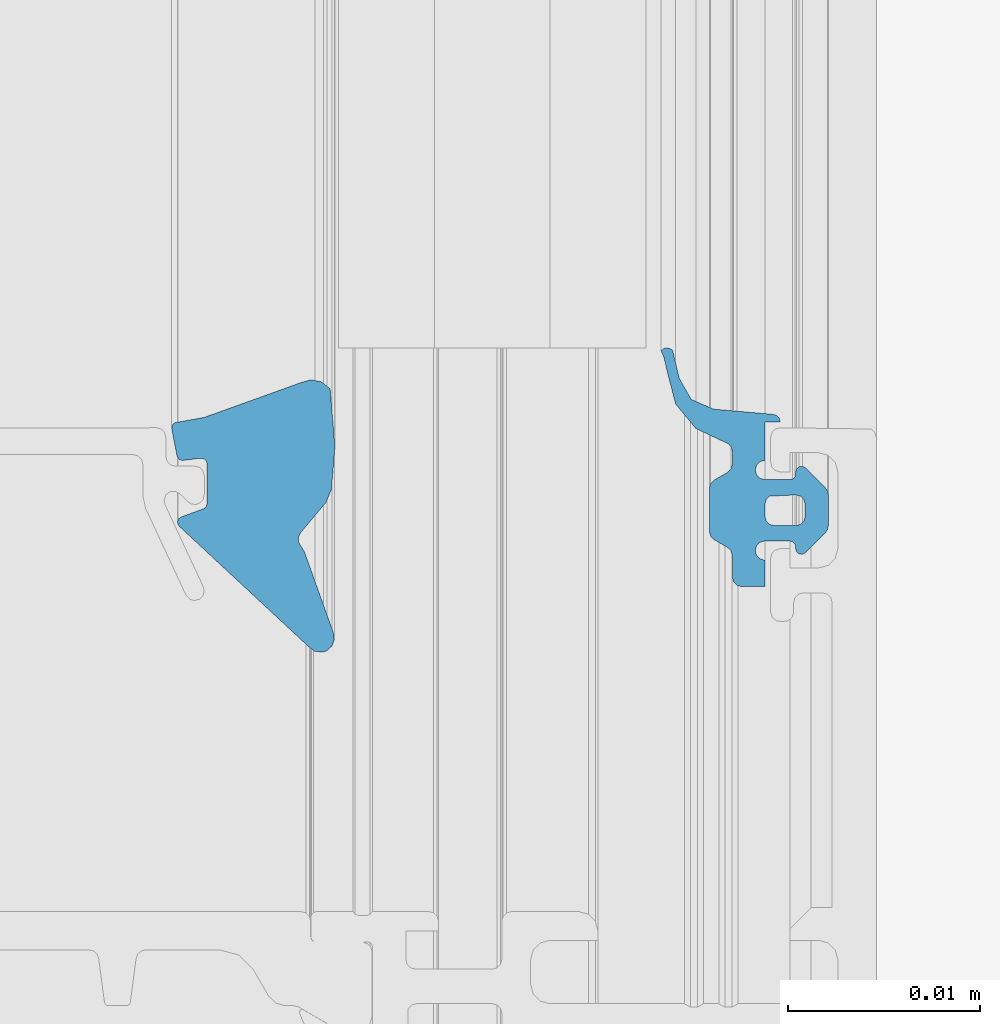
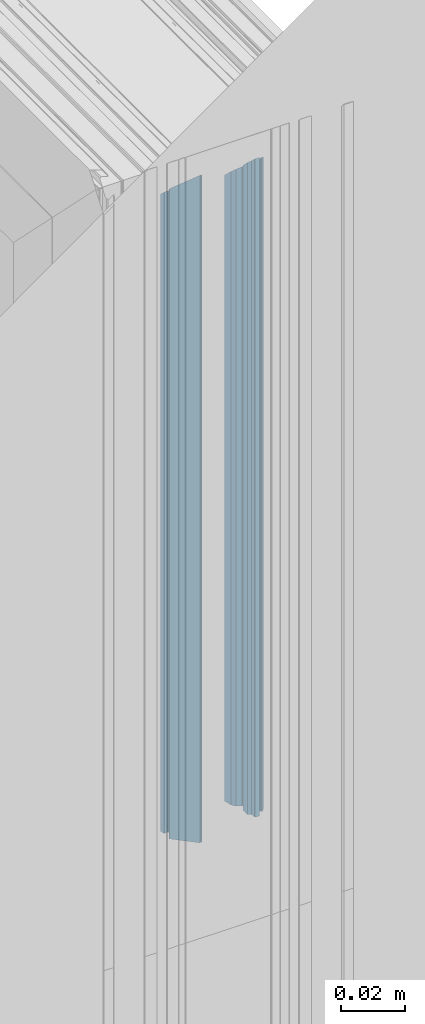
# One storey, part 49 of 65: 1 building element part, 2 elements without a shape of their own.
"""IFC2X3 building model written with IfcOpenShell, lengths in millimetres."""

from ifc_helpers import new_model, entity, si_unit, converted_unit, derived_unit, money_unit, direction, frame, origin_with_axes, place, context, subcontext, project, spatial, faceted_brep, material, type_object, element, aggregate, save


model = new_model("IFC2X3")

# Units and contexts
model_context = context("Model", 3, precision=0.01, world=origin_with_axes(), true_north=direction((0.0, 1.0)))
body_context = subcontext(model_context, "Body", "Model", "MODEL_VIEW")
ifc_project = project(units=[si_unit("LENGTHUNIT", "METRE", prefix="MILLI"), si_unit("AREAUNIT", "SQUARE_METRE"), si_unit("VOLUMEUNIT", "CUBIC_METRE"), converted_unit("PLANEANGLEUNIT", "DEGREE", entity("IfcPlaneAngleMeasure", 0.0174532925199), si_unit("PLANEANGLEUNIT", "RADIAN"), dimensions=[0, 0, 0, 0, 0, 0, 0]), si_unit("SOLIDANGLEUNIT", "STERADIAN"), money_unit("EUR"), converted_unit("TIMEUNIT", "Year", entity("IfcTimeMeasure", 31556926.0), si_unit("TIMEUNIT", "SECOND"), dimensions=[0, 0, 1, 0, 0, 0, 0]), si_unit("MASSUNIT", "GRAM", prefix="KILO"), si_unit("THERMODYNAMICTEMPERATUREUNIT", "DEGREE_CELSIUS"), si_unit("LUMINOUSINTENSITYUNIT", "LUMEN"), si_unit("ENERGYUNIT", "JOULE", prefix="MEGA"), derived_unit("THERMALCONDUCTANCEUNIT", [(si_unit("POWERUNIT", "WATT"), 1), (si_unit("LENGTHUNIT", "METRE"), -1), (si_unit("THERMODYNAMICTEMPERATUREUNIT", "KELVIN"), -1)]), derived_unit("SPECIFICHEATCAPACITYUNIT", [(si_unit("ENERGYUNIT", "JOULE"), 1), (si_unit("MASSUNIT", "GRAM", prefix="KILO"), -1), (si_unit("THERMODYNAMICTEMPERATUREUNIT", "KELVIN"), -1)]), derived_unit("MASSDENSITYUNIT", [(si_unit("MASSUNIT", "GRAM", prefix="KILO"), 1), (si_unit("VOLUMEUNIT", "CUBIC_METRE"), -1)])], contexts=[model_context])

# Site, building, storey
site_placement = place(None, origin_with_axes())
site = spatial("IfcSite", under=ifc_project, at=site_placement, Name="Puškini 31, Narva", CompositionType="ELEMENT")
building_placement = place(site_placement, origin_with_axes())
building = spatial("IfcBuilding", under=site, at=building_placement, Name="Narva Riigigümnaasium", CompositionType="ELEMENT")
storey_placement = place(building_placement, frame((0.0, 0.0, -1320.0), z_axis=(0.0, 0.0, 1.0), x_axis=(1.0, 0.0, 0.0)))
storey = spatial("IfcBuildingStorey", under=building, at=storey_placement, Name="1.korrus -1.32", CompositionType="ELEMENT", Elevation=-1320.0)

# Curtain wall, member, building element part
curtain_wall_type = type_object("IfcCurtainWallType", Name="Curtain Wall Type", PredefinedType="NOTDEFINED")
curtain_wall_placement = place(storey_placement, frame((28354.9542923, 194209.397521, 0.0), z_axis=(0.0, 0.0, 1.0), x_axis=(1.0, 0.0, 0.0)))
curtain_wall = element("IfcCurtainWall", 1, at=curtain_wall_placement, inside=storey, type_object=curtain_wall_type, Name="G-SKLF-07")
member_type = type_object("IfcMemberType", Name="61 x 45", PredefinedType="MULLION")
member_placement = place(curtain_wall_placement, frame((-0.00822307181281, -2029.39736087, 2700.0), z_axis=(0.0, 3.57745003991e-08, -1.0), x_axis=(4.05197718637e-06, 0.999999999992, 3.57745003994e-08)))
member = element("IfcMember", 2, at=member_placement, type_object=member_type, Name="G-SKLF-26", ObjectType="MULLION")
aggregate(curtain_wall, [member])
ifc_material = material(Name="Membraan - Veekindel")
building_element_part_placement = place(member_placement, origin_with_axes())
building_element_part = element("IfcBuildingElementPart", 3, at=building_element_part_placement, material=ifc_material, Name="Membraan - Veekindel", context=body_context, shape_type="Brep", body=[
    faceted_brep([(59.5800222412, 34.73794757, 59.5800243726), (59.5800222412, 34.73794757, 300.000001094), (61.0413385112, 34.3890442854, 300.000001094), (61.0413385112, 34.3890442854, 61.0413406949), (58.4755028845, 35.3628499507, 58.4755049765), (58.4755028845, 35.3628499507, 300.000001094), (57.9693613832, 36.5265882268, 300.000001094), (57.7000324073, 39.5999584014, 300.000001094), (57.6464370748, 39.799971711, 300.000001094), (57.5000161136, 39.946391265, 300.000001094), (57.3000022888, 39.9999846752, 300.000001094), (57.3000022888, 39.1999494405, 300.000001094), (55.3000210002, 39.1999606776, 300.000001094), (55.2330337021, 38.9499606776, 300.000001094), (55.0500210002, 38.7669479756, 300.000001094), (54.8000210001, 38.6999606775, 300.000001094), (54.5500210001, 38.7669479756, 300.000001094), (54.3670082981, 38.9499606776, 300.000001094), (54.300021, 39.1999606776, 300.000001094), (54.300021, 40.4999366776, 300.000001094), (54.3402133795, 40.6499366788, 300.000001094), (54.4500210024, 40.7597443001, 300.000001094), (54.6000210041, 40.7999366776, 300.000001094), (54.7000173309, 40.7999366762, 300.000001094), (54.866675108, 40.850483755, 300.000001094), (54.9771753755, 40.9850924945, 300.000001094), (54.9942836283, 41.1584047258, 300.000001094), (54.9122350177, 41.3120206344, 300.000001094), (53.8716106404, 42.3533776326, 300.000001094), (53.7093558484, 42.4618547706, 300.000001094), (53.517932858, 42.4999486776, 300.000001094), (51.8818844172, 42.4999486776, 300.000001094), (51.6904310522, 42.4618421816, 300.000001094), (51.5281601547, 42.3533311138, 300.000001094), (50.4878083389, 41.3119729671, 300.000001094), (50.4057850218, 41.1583618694, 300.000001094), (50.4229059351, 40.9850671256, 300.000001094), (50.5334025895, 40.8504763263, 300.000001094), (50.7000457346, 40.7999366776, 300.000001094), (50.80004, 40.7999366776, 300.000001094), (50.95004, 40.7597442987, 300.000001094), (51.0598476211, 40.6499366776, 300.000001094), (51.10004, 40.4999366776, 300.000001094), (51.10004, 39.1999550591, 300.000001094), (51.0330541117, 38.9499546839, 300.000001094), (50.8500424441, 38.7669409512, 300.000001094), (50.6000428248, 38.699952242, 300.000001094), (50.3500424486, 38.7669381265, 300.000001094), (50.1670287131, 38.9499497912, 300.000001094), (50.10004, 39.1999494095, 300.000001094), (48.7206527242, 39.1999494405, 300.000001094), (48.7206527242, 38.0023809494, 300.000001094), (48.7876400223, 37.7523809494, 300.000001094), (48.9706527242, 37.5693682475, 300.000001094), (49.2206527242, 37.5023809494, 300.000001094), (50.3319753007, 37.5023809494, 300.000001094), (50.5819753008, 37.4353936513, 300.000001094), (50.7649880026, 37.2523809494, 300.000001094), (51.1691331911, 36.5523809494, 300.000001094), (51.352145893, 36.3693682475, 300.000001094), (51.602145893, 36.3023809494, 300.000001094), (53.8391557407, 36.3023809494, 300.000001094), (54.0891557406, 36.3693682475, 300.000001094), (54.2721684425, 36.5523809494, 300.000001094), (54.676313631, 37.2523809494, 300.000001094), (54.8593263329, 37.4353936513, 300.000001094), (55.1093263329, 37.5023809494, 300.000001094), (55.7607444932, 37.5023809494, 300.000001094), (55.9795989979, 37.4519392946, 300.000001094), (56.1542959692, 37.3107917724, 300.000001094), (56.2495873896, 37.1074172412, 300.000001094), (56.9567944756, 35.6067920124, 300.000001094), (58.2346494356, 34.5489145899, 300.000001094), (59.8409257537, 34.1343131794, 300.000001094), (60.7381535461, 33.9217644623, 300.000001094), (61.0108941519, 33.784859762, 300.000001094), (61.1423164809, 33.9681748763, 300.000001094), (61.1536677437, 34.1934467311, 300.000001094), (53.5000340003, 40.7999553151, 300.000001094), (53.433048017, 39.44993177, 300.000001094), (53.2500389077, 39.2669226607, 300.000001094), (53.0000438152, 39.1999366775, 300.000001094), (52.4000171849, 39.1999366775, 300.000001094), (52.1500220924, 39.2669226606, 300.000001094), (51.9670129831, 39.4499317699, 300.000001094), (51.9000269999, 39.6999268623, 300.000001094), (51.9000269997, 40.799955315, 300.000001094), (51.9670118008, 41.0499459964, 300.000001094), (52.150017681, 41.2329518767, 300.000001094), (52.4000083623, 41.299936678, 300.000001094), (53.0000526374, 41.299936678, 300.000001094), (53.2500433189, 41.2329518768, 300.000001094), (53.4330491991, 41.0499459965, 300.000001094), (61.1536677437, 34.1934467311, 61.1536699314), (61.1423164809, 33.9681748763, 61.1423186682), (61.0108941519, 33.784859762, 61.0108963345), (60.7381535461, 33.9217644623, 60.7381557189), (59.8409257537, 34.1343131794, 59.8409278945), (58.2346494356, 34.5489145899, 58.2346515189), (56.9567944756, 35.6067920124, 56.9567965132), (56.2495873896, 37.1074172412, 56.2495894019), (56.1542959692, 37.3107917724, 56.1542979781), (55.9795989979, 37.4519392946, 55.9796010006), (55.7607444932, 37.5023809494, 55.760746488), (55.1093263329, 37.5023809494, 55.1093283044), (54.8593263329, 37.4353936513, 54.8593282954), (54.676313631, 37.2523809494, 54.676315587), (54.2721684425, 36.5523809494, 54.2721703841), (54.0891557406, 36.3693682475, 54.0891576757), (53.8391557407, 36.3023809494, 53.8391576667), (51.602145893, 36.3023809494, 51.602147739), (51.352145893, 36.3693682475, 51.3521477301), (51.1691331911, 36.5523809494, 51.1691350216), (50.7649880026, 37.2523809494, 50.7649898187), (50.5819753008, 37.4353936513, 50.5819771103), (50.3319753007, 37.5023809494, 50.3319771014), (49.2206527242, 37.5023809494, 49.220654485), (48.9706527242, 37.5693682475, 48.9706544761), (48.7876400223, 37.7523809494, 48.7876417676), (48.7206527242, 38.0023809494, 48.7206544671), (48.7206527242, 39.1999494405, 48.7206544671), (50.10004, 39.1999494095, 50.1000417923), (50.1670287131, 38.9499497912, 50.1670305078), (50.3500424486, 38.7669381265, 50.3500442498), (50.6000428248, 38.699952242, 50.600044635), (50.8500424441, 38.7669409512, 50.8500442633), (51.0330541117, 38.9499546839, 51.0330559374), (51.10004, 39.1999550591, 51.1000418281), (51.10004, 40.4999366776, 51.1000418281), (51.0598476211, 40.6499366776, 51.0598494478), (50.95004, 40.7597442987, 50.9500418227), (50.80004, 40.7999366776, 50.8000418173), (50.7000457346, 40.7999366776, 50.7000475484), (50.5334025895, 40.8504763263, 50.5334043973), (50.4229059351, 40.9850671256, 50.4229077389), (50.4057850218, 41.1583618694, 50.405786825), (50.4878083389, 41.3119729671, 50.487810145), (51.5281601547, 42.3533311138, 51.5281619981), (51.6904310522, 42.4618421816, 51.6904329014), (51.8818844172, 42.4999486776, 51.8818862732), (53.517932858, 42.4999486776, 53.5179347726), (53.7093558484, 42.4618547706, 53.7093577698), (53.8716106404, 42.3533776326, 53.8716125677), (54.9122350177, 41.3120206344, 54.9122369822), (54.9942836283, 41.1584047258, 54.9942855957), (54.9771753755, 40.9850924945, 54.9771773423), (54.866675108, 40.850483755, 54.8666770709), (54.7000173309, 40.7999366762, 54.7000192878), (54.6000210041, 40.7999366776, 54.6000229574), (54.4500210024, 40.7597443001, 54.4500229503), (54.3402133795, 40.6499366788, 54.3402153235), (54.300021, 40.4999366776, 54.3000229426), (54.300021, 39.1999606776, 54.3000229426), (54.3670082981, 38.9499606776, 54.3670102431), (54.5500210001, 38.7669479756, 54.5500229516), (54.8000210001, 38.6999606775, 54.8000229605), (55.0500210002, 38.7669479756, 55.0500229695), (55.2330337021, 38.9499606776, 55.233035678), (55.3000210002, 39.1999606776, 55.3000229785), (57.3000022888, 39.1999494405, 57.3000043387), (57.3000022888, 39.9999846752, 57.3000043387), (57.5000161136, 39.946391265, 57.5000181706), (57.6464370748, 39.799971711, 57.6464391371), (57.7000324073, 39.5999584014, 57.7000344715), (57.9693613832, 36.5265882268, 57.9693634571), (53.5000340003, 40.7999553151, 53.5000359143), (53.4330491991, 41.0499459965, 53.4330511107), (53.2500433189, 41.2329518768, 53.2500452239), (53.0000526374, 41.299936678, 53.0000545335), (52.4000083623, 41.299936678, 52.4000102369), (52.150017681, 41.2329518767, 52.1500195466), (51.9670118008, 41.0499459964, 51.9670136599), (51.9000269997, 40.799955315, 51.9000288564), (51.9000269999, 39.6999268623, 51.9000288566), (51.9670129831, 39.4499317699, 51.9670148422), (52.1500220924, 39.2669226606, 52.1500239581), (52.4000171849, 39.1999366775, 52.4000190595), (53.0000438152, 39.1999366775, 53.0000457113), (53.2500389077, 39.2669226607, 53.2500408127), (53.433048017, 39.44993177, 53.4330499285)], [[[0, 1, 2, 3]], [[4, 5, 1, 0]], [[2, 1, 5, 6, 7, 8, 9, 10, 11, 12, 13, 14, 15, 16, 17, 18, 19, 20, 21, 22, 23, 24, 25, 26, 27, 28, 29, 30, 31, 32, 33, 34, 35, 36, 37, 38, 39, 40, 41, 42, 43, 44, 45, 46, 47, 48, 49, 50, 51, 52, 53, 54, 55, 56, 57, 58, 59, 60, 61, 62, 63, 64, 65, 66, 67, 68, 69, 70, 71, 72, 73, 74, 75, 76, 77], [78, 79, 80, 81, 82, 83, 84, 85, 86, 87, 88, 89, 90, 91, 92]], [[3, 2, 77, 93]], [[3, 93, 94, 95, 96, 97, 98, 99, 100, 101, 102, 103, 104, 105, 106, 107, 108, 109, 110, 111, 112, 113, 114, 115, 116, 117, 118, 119, 120, 121, 122, 123, 124, 125, 126, 127, 128, 129, 130, 131, 132, 133, 134, 135, 136, 137, 138, 139, 140, 141, 142, 143, 144, 145, 146, 147, 148, 149, 150, 151, 152, 153, 154, 155, 156, 157, 158, 159, 160, 161, 162, 163, 164, 4, 0], [165, 166, 167, 168, 169, 170, 171, 172, 173, 174, 175, 176, 177, 178, 179]], [[164, 6, 5, 4]], [[163, 7, 6, 164]], [[162, 8, 7, 163]], [[161, 9, 8, 162]], [[160, 10, 9, 161]], [[159, 11, 10, 160]], [[158, 12, 11, 159]], [[157, 13, 12, 158]], [[156, 14, 13, 157]], [[155, 15, 14, 156]], [[154, 16, 15, 155]], [[153, 17, 16, 154]], [[152, 18, 17, 153]], [[151, 19, 18, 152]], [[150, 20, 19, 151]], [[149, 21, 20, 150]], [[148, 22, 21, 149]], [[147, 23, 22, 148]], [[146, 24, 23, 147]], [[145, 25, 24, 146]], [[144, 26, 25, 145]], [[143, 27, 26, 144]], [[142, 28, 27, 143]], [[141, 29, 28, 142]], [[140, 30, 29, 141]], [[139, 31, 30, 140]], [[138, 32, 31, 139]], [[137, 33, 32, 138]], [[136, 34, 33, 137]], [[135, 35, 34, 136]], [[134, 36, 35, 135]], [[133, 37, 36, 134]], [[132, 38, 37, 133]], [[131, 39, 38, 132]], [[130, 40, 39, 131]], [[129, 41, 40, 130]], [[128, 42, 41, 129]], [[127, 43, 42, 128]], [[126, 44, 43, 127]], [[125, 45, 44, 126]], [[124, 46, 45, 125]], [[123, 47, 46, 124]], [[122, 48, 47, 123]], [[121, 49, 48, 122]], [[120, 50, 49, 121]], [[119, 51, 50, 120]], [[118, 52, 51, 119]], [[117, 53, 52, 118]], [[116, 54, 53, 117]], [[115, 55, 54, 116]], [[114, 56, 55, 115]], [[113, 57, 56, 114]], [[112, 58, 57, 113]], [[111, 59, 58, 112]], [[110, 60, 59, 111]], [[109, 61, 60, 110]], [[108, 62, 61, 109]], [[107, 63, 62, 108]], [[106, 64, 63, 107]], [[105, 65, 64, 106]], [[104, 66, 65, 105]], [[103, 67, 66, 104]], [[102, 68, 67, 103]], [[101, 69, 68, 102]], [[100, 70, 69, 101]], [[99, 71, 70, 100]], [[98, 72, 71, 99]], [[97, 73, 72, 98]], [[96, 74, 73, 97]], [[95, 75, 74, 96]], [[94, 76, 75, 95]], [[93, 77, 76, 94]], [[179, 79, 78, 165]], [[178, 80, 79, 179]], [[177, 81, 80, 178]], [[176, 82, 81, 177]], [[175, 83, 82, 176]], [[174, 84, 83, 175]], [[173, 85, 84, 174]], [[172, 86, 85, 173]], [[171, 87, 86, 172]], [[170, 88, 87, 171]], [[169, 89, 88, 170]], [[168, 90, 89, 169]], [[167, 91, 90, 168]], [[166, 92, 91, 167]], [[165, 78, 92, 166]]]),
    faceted_brep([(55.9926715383, 16.8063498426, 55.9926735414), (55.9926715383, 16.8063498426, 300.000001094), (59.0307115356, 16.554149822, 300.000001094), (59.0307115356, 16.554149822, 59.0307136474), (53.7899070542, 16.6230039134, 53.7899089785), (53.7899070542, 16.6230039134, 300.000001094), (53.1225200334, 16.3483062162, 300.000001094), (51.5205025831, 15.0099586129, 300.000001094), (51.3011765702, 14.8998814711, 300.000001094), (51.0558924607, 14.9074036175, 300.000001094), (50.8437237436, 15.0307134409, 300.000001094), (50.5536994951, 15.2121179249, 300.000001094), (46.298307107, 16.7340705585, 300.000001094), (45.950966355, 16.7718696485, 300.000001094), (45.6241929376, 16.6482027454, 300.000001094), (45.3889077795, 16.3899097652, 300.000001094), (45.3195226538, 16.2152275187, 300.000001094), (45.3418968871, 15.7688623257, 300.000001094), (45.6142070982, 15.4144760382, 300.000001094), (51.8169217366, 8.74599822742, 300.000001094), (51.938943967, 8.6326446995, 300.000001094), (52.1026310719, 8.60190419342, 300.000001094), (52.2574645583, 8.66326410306, 300.000001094), (52.3556584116, 8.79778701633, 300.000001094), (52.7761212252, 9.95299910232, 300.000001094), (52.8859560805, 10.0961386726, 300.000001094), (53.0580290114, 10.1503930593, 300.000001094), (55.1123574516, 10.1503930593, 300.000001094), (55.2731258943, 10.1036784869, 300.000001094), (55.3838261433, 9.9780831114, 300.000001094), (55.4099827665, 9.81272116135, 300.000001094), (55.2940485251, 8.85237785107, 300.000001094), (55.3307332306, 8.72753828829, 300.000001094), (55.4168250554, 8.62997353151, 300.000001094), (55.5361285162, 8.57803733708, 300.000001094), (56.9361285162, 8.30590490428, 300.000001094), (57.0661058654, 8.3093438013, 300.000001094), (57.1824204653, 8.36745448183, 300.000001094), (57.2632233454, 8.46932121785, 300.000001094), (57.5418652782, 10.0035930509, 300.000001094), (59.3405112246, 15.0012955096, 300.000001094), (59.5001582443, 15.5494067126, 300.000001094), (59.3884652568, 16.1092618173, 300.000001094), (59.3884652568, 16.1092618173, 59.3884673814), (59.5001582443, 15.5494067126, 59.5001603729), (59.3405112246, 15.0012955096, 59.3405133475), (57.5418652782, 10.0035930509, 57.5418673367), (57.2632233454, 8.46932121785, 57.2632253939), (57.1824204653, 8.36745448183, 57.182422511), (57.0661058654, 8.3093438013, 57.066107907), (56.9361285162, 8.30590490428, 56.936130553), (55.5361285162, 8.57803733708, 55.536130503), (55.4168250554, 8.62997353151, 55.4168270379), (55.3307332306, 8.72753828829, 55.3307352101), (55.2940485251, 8.85237785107, 55.2940505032), (55.4099827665, 9.81272116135, 55.4099847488), (55.3838261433, 9.9780831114, 55.3838281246), (55.2731258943, 10.1036784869, 55.2731278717), (55.1123574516, 10.1503930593, 55.1123594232), (53.0580290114, 10.1503930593, 53.0580309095), (52.8859560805, 10.0961386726, 52.8859579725), (52.7761212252, 9.95299910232, 52.7761231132), (52.3556584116, 8.79778701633, 52.3556602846), (52.2574645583, 8.66326410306, 52.2574664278), (52.1026310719, 8.60190419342, 52.1026329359), (51.938943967, 8.6326446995, 51.9389458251), (51.8169217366, 8.74599822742, 51.8169235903), (45.6142070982, 15.4144760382, 45.61420873), (45.3418968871, 15.7688623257, 45.3418985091), (45.3195226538, 16.2152275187, 45.3195242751), (45.3889077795, 16.3899097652, 45.3889094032), (45.6241929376, 16.6482027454, 45.6241945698), (45.950966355, 16.7718696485, 45.9509679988), (46.298307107, 16.7340705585, 46.2983087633), (50.5536994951, 15.2121179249, 50.5537013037), (50.8437237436, 15.0307134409, 50.8437255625), (51.0558924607, 14.9074036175, 51.0558942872), (51.3011765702, 14.8998814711, 51.3011784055), (51.5205025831, 15.0099586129, 51.5205044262), (53.1225200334, 16.3483062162, 53.1225219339)], [[[0, 1, 2, 3]], [[4, 5, 1, 0]], [[2, 1, 5, 6, 7, 8, 9, 10, 11, 12, 13, 14, 15, 16, 17, 18, 19, 20, 21, 22, 23, 24, 25, 26, 27, 28, 29, 30, 31, 32, 33, 34, 35, 36, 37, 38, 39, 40, 41, 42]], [[3, 2, 42, 43]], [[3, 43, 44, 45, 46, 47, 48, 49, 50, 51, 52, 53, 54, 55, 56, 57, 58, 59, 60, 61, 62, 63, 64, 65, 66, 67, 68, 69, 70, 71, 72, 73, 74, 75, 76, 77, 78, 79, 4, 0]], [[79, 6, 5, 4]], [[78, 7, 6, 79]], [[77, 8, 7, 78]], [[76, 9, 8, 77]], [[75, 10, 9, 76]], [[74, 11, 10, 75]], [[73, 12, 11, 74]], [[72, 13, 12, 73]], [[71, 14, 13, 72]], [[70, 15, 14, 71]], [[69, 16, 15, 70]], [[68, 17, 16, 69]], [[67, 18, 17, 68]], [[66, 19, 18, 67]], [[65, 20, 19, 66]], [[64, 21, 20, 65]], [[63, 22, 21, 64]], [[62, 23, 22, 63]], [[61, 24, 23, 62]], [[60, 25, 24, 61]], [[59, 26, 25, 60]], [[58, 27, 26, 59]], [[57, 28, 27, 58]], [[56, 29, 28, 57]], [[55, 30, 29, 56]], [[54, 31, 30, 55]], [[53, 32, 31, 54]], [[52, 33, 32, 53]], [[51, 34, 33, 52]], [[50, 35, 34, 51]], [[49, 36, 35, 50]], [[48, 37, 36, 49]], [[47, 38, 37, 48]], [[46, 39, 38, 47]], [[45, 40, 39, 46]], [[44, 41, 40, 45]], [[43, 42, 41, 44]]]),
])
aggregate(member, [building_element_part])

save(model, "model.ifc")
